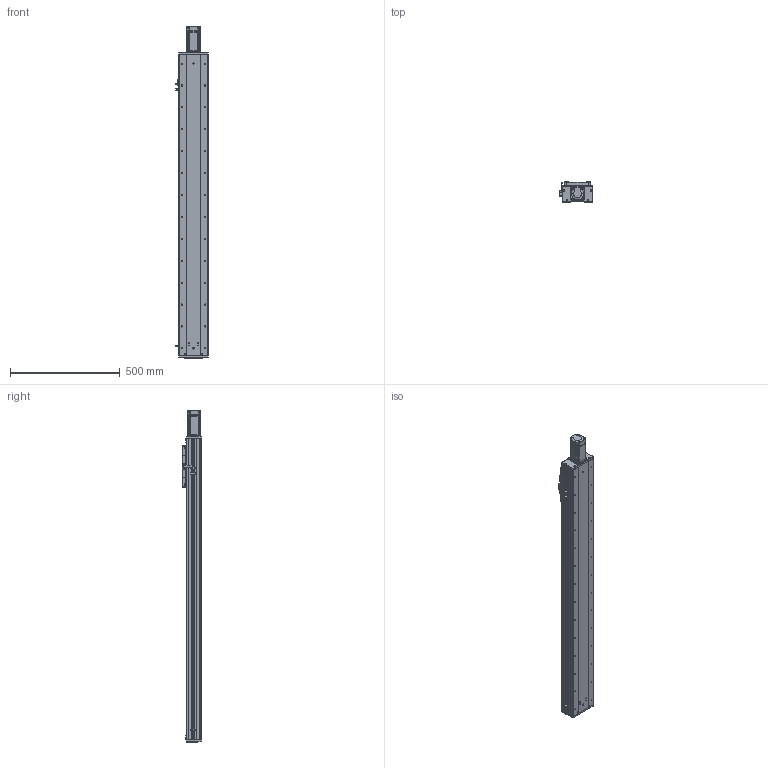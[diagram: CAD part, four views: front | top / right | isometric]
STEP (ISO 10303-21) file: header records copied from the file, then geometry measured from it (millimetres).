
FILE_DESCRIPTION (( 'STEP AP203' ), '1' );
FILE_NAME ('RY140F-L2020-300-MK.SLDASM_1100.step', '2021-03-02T06:24:31', ( '盈信电脑' ), ( '东莞市道滘镇水果街19号' ), 'SwSTEP 2.0', 'SolidWorks 2012', '' );
FILE_SCHEMA (( 'CONFIG_CONTROL_DESIGN' ));
Length unit declared in the file: millimetre
Products named in the file (18): RY140F-L2020-300-MK.SLDASM_1100; 滅袉蝶18-10; 侐源滅袉蝶; RY140F-672覜茼んえ; 侂狟400W侜督萇儂; RY140F-詩湍揤え; 覜茼ん672; RY140F-直连前盖板(铝件）; 15; RY140F-直连型材铝滑块(16丝杆); RY140F-后盖板(铝件）; RY100F-詩湍揤踡謫; RY140F-滅鳥奻裔; RY140F-直连型材铝滑块连接座; RY140F-詩湍幗謫粣; RY140F-300-MK眻蟀詩湍_1100; RY140F-300-MK眻蟀倰第奻裔啣_1100; RY140F-300-MK眻蟀倰第菁釱_1100
Assembly tree (22 placements, depth 3):
  RY140F-L2020-300-MK.SLDASM_1100
    RY140F-300-MK眻蟀倰第菁釱_1100
    RY140F-300-MK眻蟀倰第奻裔啣_1100  x2
    RY140F-300-MK眻蟀詩湍_1100
    RY140F-直连型材铝滑块连接座
    RY140F-滅鳥奻裔
    RY140F-詩湍幗謫粣
    RY100F-詩湍揤踡謫
    RY140F-直连型材铝滑块(16丝杆)
    RY140F-直连前盖板(铝件）
    RY140F-后盖板(铝件）
    侂狟400W侜督萇儂
      15
    覜茼ん672  x3
    RY140F-672覜茼んえ
    RY140F-詩湍揤え  x2
    滅袉蝶18-10
    侐源滅袉蝶  x2
Bounding box: 148.7 x 91 x 1515.5 mm (x, y, z)
Volume: 5044536.9 mm3; surface area: 1761509.6 mm2
Topology: 21 solids, 21 shells, 2024 faces, 5561 edges, 3548 vertices
Faces by surface type: cylinder 934, plane 854, cone 214, bspline 18, torus 4
Entity records: 58670 total; most frequent: CARTESIAN_POINT 11697, DIRECTION 9624, ORIENTED_EDGE 9198, EDGE_CURVE 4599, AXIS2_PLACEMENT_3D 3463, VERTEX_POINT 3016, LINE 2698, VECTOR 2698
